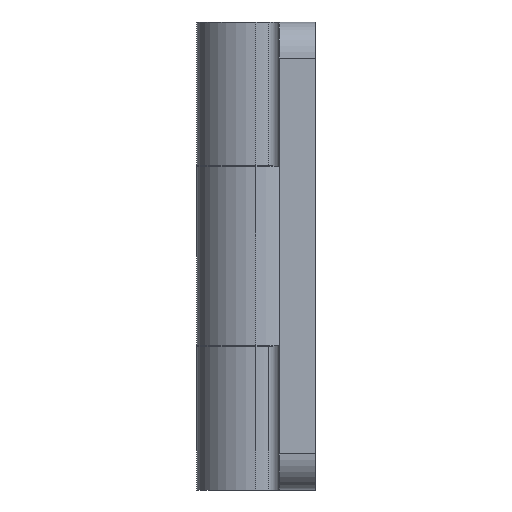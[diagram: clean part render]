
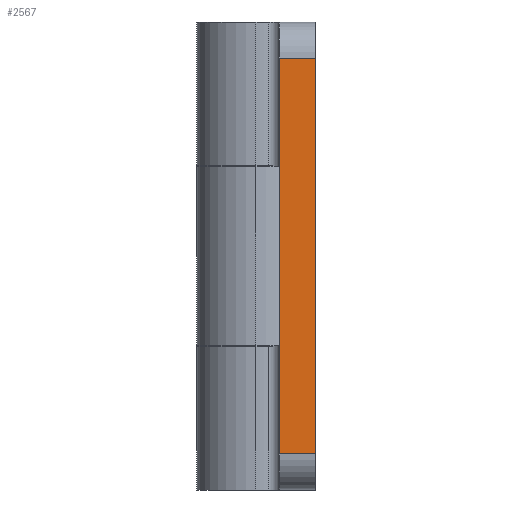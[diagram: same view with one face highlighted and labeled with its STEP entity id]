
A CAD part, left-side view. The second image highlights one B-rep face of the part: STEP entity #2567.
In plain terms, the highlighted planar face has unit normal (-1, 0, 0).
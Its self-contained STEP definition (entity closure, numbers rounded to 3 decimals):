
#71 = ORIENTED_EDGE ( 'NONE', *, *, #1767, .T. ) ;
#93 = PLANE ( 'NONE',  #2817 ) ;
#130 = CARTESIAN_POINT ( 'NONE',  ( -11.2, -1.3, 11. ) ) ;
#159 = FACE_OUTER_BOUND ( 'NONE', #1542, .T. ) ;
#246 = DIRECTION ( 'NONE',  ( 0., 0., -1. ) ) ;
#272 = DIRECTION ( 'NONE',  ( 0., 0., -1. ) ) ;
#301 = VERTEX_POINT ( 'NONE', #2011 ) ;
#375 = EDGE_CURVE ( 'NONE', #3039, #2828, #2580, .T. ) ;
#466 = VECTOR ( 'NONE', #246, 1000. ) ;
#904 = LINE ( 'NONE', #2374, #1510 ) ;
#947 = CARTESIAN_POINT ( 'NONE',  ( -11.2, -3.3, 13. ) ) ;
#985 = ORIENTED_EDGE ( 'NONE', *, *, #2129, .T. ) ;
#1106 = LINE ( 'NONE', #130, #1773 ) ;
#1401 = DIRECTION ( 'NONE',  ( 0., 0., -1. ) ) ;
#1452 = ORIENTED_EDGE ( 'NONE', *, *, #2662, .F. ) ;
#1510 = VECTOR ( 'NONE', #1621, 1000. ) ;
#1542 = EDGE_LOOP ( 'NONE', ( #2856, #985, #1452, #71 ) ) ;
#1621 = DIRECTION ( 'NONE',  ( 0., -1., 0. ) ) ;
#1767 = EDGE_CURVE ( 'NONE', #3167, #3039, #1106, .T. ) ;
#1773 = VECTOR ( 'NONE', #2398, 1000. ) ;
#1793 = CARTESIAN_POINT ( 'NONE',  ( -11.2, -3.3, 11. ) ) ;
#2011 = CARTESIAN_POINT ( 'NONE',  ( -11.2, -3.3, -11. ) ) ;
#2094 = CARTESIAN_POINT ( 'NONE',  ( -11.2, -1.3, 13. ) ) ;
#2129 = EDGE_CURVE ( 'NONE', #2828, #301, #904, .T. ) ;
#2150 = VECTOR ( 'NONE', #272, 1000. ) ;
#2374 = CARTESIAN_POINT ( 'NONE',  ( -11.2, -3.3, -11. ) ) ;
#2398 = DIRECTION ( 'NONE',  ( 0., 1., 0. ) ) ;
#2567 = ADVANCED_FACE ( 'NONE', ( #159 ), #93, .F. ) ;
#2580 = LINE ( 'NONE', #2094, #2150 ) ;
#2655 = DIRECTION ( 'NONE',  ( 1., 0., 0. ) ) ;
#2662 = EDGE_CURVE ( 'NONE', #3167, #301, #3064, .T. ) ;
#2776 = CARTESIAN_POINT ( 'NONE',  ( -11.2, -3.3, 13. ) ) ;
#2817 = AXIS2_PLACEMENT_3D ( 'NONE', #947, #2655, #1401 ) ;
#2828 = VERTEX_POINT ( 'NONE', #3112 ) ;
#2856 = ORIENTED_EDGE ( 'NONE', *, *, #375, .T. ) ;
#3039 = VERTEX_POINT ( 'NONE', #3256 ) ;
#3064 = LINE ( 'NONE', #2776, #466 ) ;
#3112 = CARTESIAN_POINT ( 'NONE',  ( -11.2, -1.3, -11. ) ) ;
#3167 = VERTEX_POINT ( 'NONE', #1793 ) ;
#3256 = CARTESIAN_POINT ( 'NONE',  ( -11.2, -1.3, 11. ) ) ;
